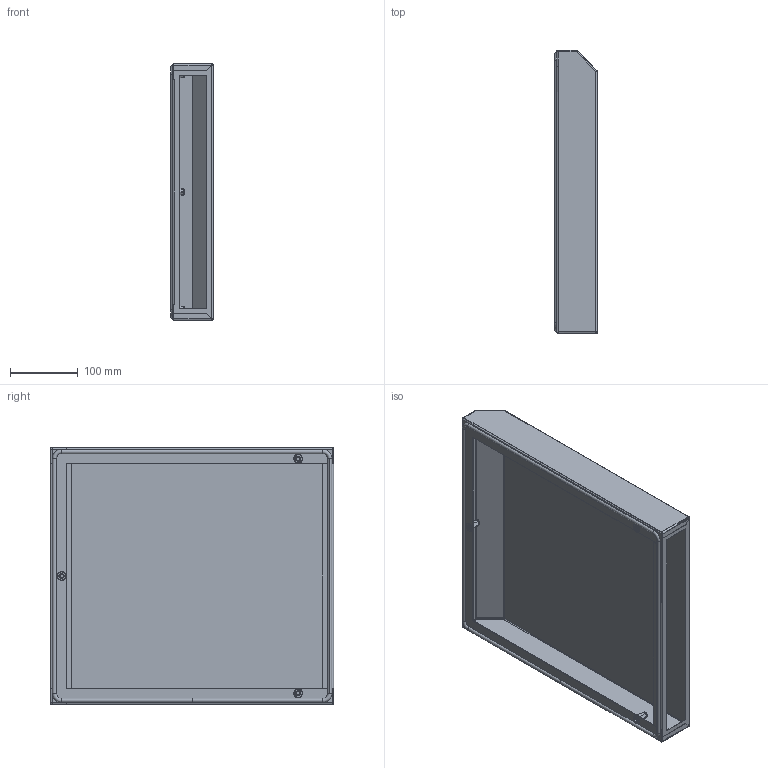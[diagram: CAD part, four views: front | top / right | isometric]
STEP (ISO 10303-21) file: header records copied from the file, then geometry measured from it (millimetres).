
FILE_DESCRIPTION (( 'STEP AP203' ), '1' );
FILE_NAME ('R 20 FA S 01.000 ﾑﾁ ﾊ鮻 鈞隆 蓁 粢炅齏.STEP', '2022-05-11T14:22:20', ( '' ), ( '' ), 'SwSTEP 2.0', 'SolidWorks 2018', '' );
FILE_SCHEMA (( 'CONFIG_CONTROL_DESIGN' ));
Length unit declared in the file: millimetre
Products named in the file (4): 逄鋋襡樇鳺 鼨錒膰膼碭嬅R 15 FA S; R 12 FA S 00.001 ﾊ鮻 鈞隆 蓁 粢炅齏_R 20 FA S 00.001 EPLAN; Çàêëåïêà íåðæ. âûòÿæíàÿ ðåçüáîâàÿ øåñòèãðàííàÿ çàêðûòàÿ Ì6_1,4; R 20 FA S 01.000 ﾑﾁ ﾊ鮻 鈞隆 蓁 粢炅齏
Assembly tree (5 placements, depth 2):
  R 20 FA S 01.000 ﾑﾁ ﾊ鮻 鈞隆 蓁 粢炅齏
    R 12 FA S 00.001 ﾊ鮻 鈞隆 蓁 粢炅齏_R 20 FA S 00.001 EPLAN
    逄鋋襡樇鳺 鼨錒膰膼碭嬅R 15 FA S
    Çàêëåïêà íåðæ. âûòÿæíàÿ ðåçüáîâàÿ øåñòèãðàííàÿ çàêðûòàÿ Ì6_1,4  x3
Bounding box: 63.12 x 418.92 x 380 mm (x, y, z)
Volume: 338296.8 mm3; surface area: 551216.7 mm2
Topology: 5 solids, 5 shells, 465 faces, 1067 edges, 618 vertices
Faces by surface type: plane 147, bspline 116, cylinder 114, torus 52, sphere 24, cone 12
Entity records: 9516 total; most frequent: CARTESIAN_POINT 3580, ORIENTED_EDGE 1166, DIRECTION 1100, EDGE_CURVE 583, AXIS2_PLACEMENT_3D 396, VERTEX_POINT 338, VECTOR 308, LINE 308
